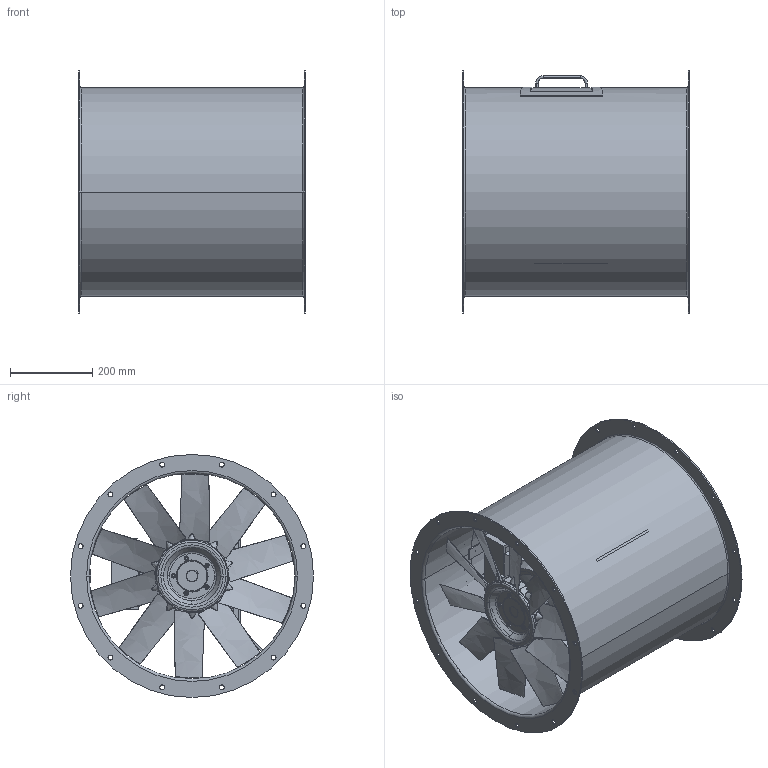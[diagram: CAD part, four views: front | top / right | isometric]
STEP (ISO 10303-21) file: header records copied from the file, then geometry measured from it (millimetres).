
FILE_DESCRIPTION (( 'STEP AP214' ), '1' );
FILE_NAME ('BRV 500-2_FF_L=550.STEP', '2020-09-01T11:16:05', ( '' ), ( '' ), 'SwSTEP 2.0', 'SolidWorks 2016', '' );
FILE_SCHEMA (( 'AUTOMOTIVE_DESIGN' ));
Length unit declared in the file: millimetre
Products named in the file (16): Boss Bolt And Nuts - 495_10-10_30_PPG_3HL_28_8_62_A-122141_5; BRV 500-2_FF_L=550; BB-Nut-Y63206000006_495_10-10_30_PPG_3HL_28_8_62_A-122141; BB-Bolt-Y62006200008_495_10-10_30_PPG_3HL_28_8_62_A-122141; 1TZ9 C 112M-4 4kW B3 IE3; BRV 500-2_FF_L=550_mot.112; 20100700103 - 495_10-10_30_PPG_3HL_28_8_62_A-122141; Boss Bolt And Nuts - 495_10-10_30_PPG_3HL_28_8_62_A-122141_3; Boss Bolt And Nuts - 495_10-10_30_PPG_3HL_28_8_62_A-122141_2; Boss Bolt And Nuts - 495_10-10_30_PPG_3HL_28_8_62_A-122141; 24000706200 - 495_10-10_30_PPG_3HL_28_8_62_A-122141; 13000103075 - 495_10-10_30_PPG_3HL_28_8_62_A-122141; Boss Bolt And Nuts - 495_10-10_30_PPG_3HL_28_8_62_A-122141_4; D2010060001 - 495_10-10_30_PPG_3HL_28_8_62_A-122141; 495_10-10_30_PPG_3HL_28_8_62_A-122141; BRV 500 Insp.luke 150x150
Assembly tree (32 placements, depth 4):
  BRV 500-2_FF_L=550
    BRV 500-2_FF_L=550_mot.112
    1TZ9 C 112M-4 4kW B3 IE3
    BRV 500 Insp.luke 150x150
    495_10-10_30_PPG_3HL_28_8_62_A-122141
      20100700103 - 495_10-10_30_PPG_3HL_28_8_62_A-122141
      D2010060001 - 495_10-10_30_PPG_3HL_28_8_62_A-122141
      13000103075 - 495_10-10_30_PPG_3HL_28_8_62_A-122141  x10
      24000706200 - 495_10-10_30_PPG_3HL_28_8_62_A-122141
      Boss Bolt And Nuts - 495_10-10_30_PPG_3HL_28_8_62_A-122141
        BB-Bolt-Y62006200008_495_10-10_30_PPG_3HL_28_8_62_A-122141
        BB-Nut-Y63206000006_495_10-10_30_PPG_3HL_28_8_62_A-122141
      Boss Bolt And Nuts - 495_10-10_30_PPG_3HL_28_8_62_A-122141_2
        BB-Bolt-Y62006200008_495_10-10_30_PPG_3HL_28_8_62_A-122141
        BB-Nut-Y63206000006_495_10-10_30_PPG_3HL_28_8_62_A-122141
      Boss Bolt And Nuts - 495_10-10_30_PPG_3HL_28_8_62_A-122141_3
        BB-Bolt-Y62006200008_495_10-10_30_PPG_3HL_28_8_62_A-122141
        BB-Nut-Y63206000006_495_10-10_30_PPG_3HL_28_8_62_A-122141
      Boss Bolt And Nuts - 495_10-10_30_PPG_3HL_28_8_62_A-122141_4
        BB-Bolt-Y62006200008_495_10-10_30_PPG_3HL_28_8_62_A-122141
        BB-Nut-Y63206000006_495_10-10_30_PPG_3HL_28_8_62_A-122141
      Boss Bolt And Nuts - 495_10-10_30_PPG_3HL_28_8_62_A-122141_5
        BB-Bolt-Y62006200008_495_10-10_30_PPG_3HL_28_8_62_A-122141
        BB-Nut-Y63206000006_495_10-10_30_PPG_3HL_28_8_62_A-122141
Bounding box: 550 x 590 x 590 mm (x, y, z)
Volume: 18017865.2 mm3; surface area: 3264493.5 mm2
Topology: 28 solids, 28 shells, 1648 faces, 4201 edges, 2660 vertices
Faces by surface type: plane 706, cone 400, bspline 282, cylinder 244, torus 16
Entity records: 41793 total; most frequent: CARTESIAN_POINT 14539, ORIENTED_EDGE 5744, DIRECTION 5389, EDGE_CURVE 2872, AXIS2_PLACEMENT_3D 1954, VERTEX_POINT 1887, LINE 1481, VECTOR 1481
